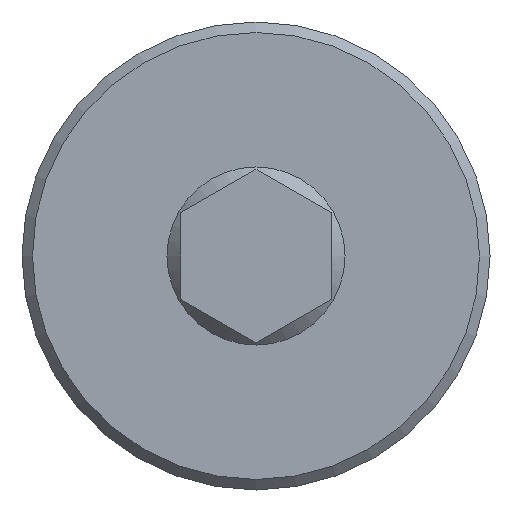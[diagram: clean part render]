
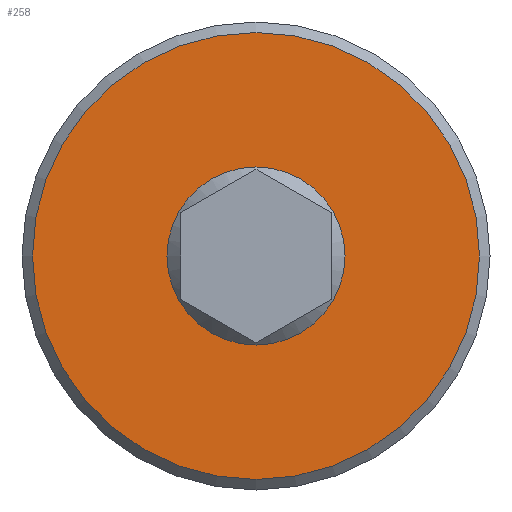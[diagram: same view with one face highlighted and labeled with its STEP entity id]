
A CAD part, front view. The second image highlights one B-rep face of the part: STEP entity #258.
In plain terms, the highlighted planar face has unit normal (0, 1, 0).
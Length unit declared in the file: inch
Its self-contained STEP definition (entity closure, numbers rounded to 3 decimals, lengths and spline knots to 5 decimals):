
#15=FACE_BOUND('',#53,.T.);
#23=CIRCLE('',#291,1.1175);
#24=CIRCLE('',#293,0.445);
#39=FACE_OUTER_BOUND('',#52,.T.);
#52=EDGE_LOOP('',(#217));
#53=EDGE_LOOP('',(#218));
#127=VERTEX_POINT('',#450);
#128=VERTEX_POINT('',#454);
#163=EDGE_CURVE('',#127,#127,#23,.T.);
#164=EDGE_CURVE('',#128,#128,#24,.T.);
#217=ORIENTED_EDGE('',*,*,#163,.F.);
#218=ORIENTED_EDGE('',*,*,#164,.F.);
#246=PLANE('',#292);
#258=ADVANCED_FACE('',(#39,#15),#246,.T.);
#291=AXIS2_PLACEMENT_3D('',#452,#346,#347);
#292=AXIS2_PLACEMENT_3D('',#453,#348,#349);
#293=AXIS2_PLACEMENT_3D('',#455,#350,#351);
#346=DIRECTION('center_axis',(0.,-1.,0.));
#347=DIRECTION('ref_axis',(0.,0.,1.));
#348=DIRECTION('center_axis',(0.,1.,0.));
#349=DIRECTION('ref_axis',(0.,0.,1.));
#350=DIRECTION('center_axis',(0.,1.,0.));
#351=DIRECTION('ref_axis',(0.,0.,1.));
#450=CARTESIAN_POINT('',(0.,0.875,-1.1175));
#452=CARTESIAN_POINT('Origin',(0.,0.875,0.));
#453=CARTESIAN_POINT('Origin',(0.,0.875,-1.1875));
#454=CARTESIAN_POINT('',(0.,0.875,-0.445));
#455=CARTESIAN_POINT('Origin',(0.,0.875,0.));
